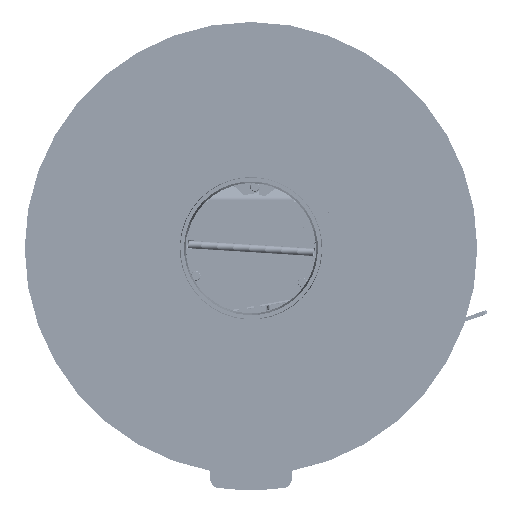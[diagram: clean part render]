
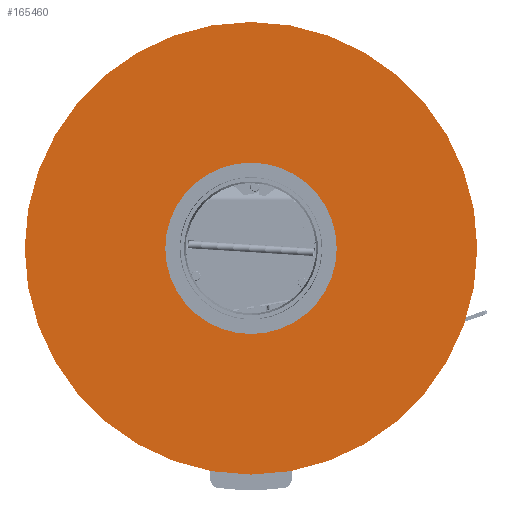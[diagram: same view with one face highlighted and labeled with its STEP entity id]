
A CAD part, top view. The second image highlights one B-rep face of the part: STEP entity #165460.
In plain terms, the highlighted planar face has unit normal (0, 0, 1).
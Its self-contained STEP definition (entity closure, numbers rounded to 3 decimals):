
#33698=PLANE('',#174686);
#41685=FACE_BOUND('',#52727,.T.);
#43603=FACE_OUTER_BOUND('',#52726,.T.);
#52726=EDGE_LOOP('',(#110159));
#52727=EDGE_LOOP('',(#110160));
#63675=CIRCLE('',#174680,8.9);
#63678=CIRCLE('',#174684,23.5);
#70196=VERTEX_POINT('',#236347);
#70199=VERTEX_POINT('',#236354);
#85997=EDGE_CURVE('',#70196,#70196,#63675,.T.);
#86000=EDGE_CURVE('',#70199,#70199,#63678,.T.);
#110159=ORIENTED_EDGE('',*,*,#86000,.T.);
#110160=ORIENTED_EDGE('',*,*,#85997,.T.);
#165460=ADVANCED_FACE('',(#43603,#41685),#33698,.T.);
#174680=AXIS2_PLACEMENT_3D('',#236348,#190302,#190303);
#174684=AXIS2_PLACEMENT_3D('',#236355,#190310,#190311);
#174686=AXIS2_PLACEMENT_3D('',#236357,#190314,#190315);
#190302=DIRECTION('center_axis',(0.,0.,
-1.));
#190303=DIRECTION('ref_axis',(-1.,0.,0.));
#190310=DIRECTION('center_axis',(0.,0.,
1.));
#190311=DIRECTION('ref_axis',(-1.,0.,0.));
#190314=DIRECTION('center_axis',(0.,0.,
1.));
#190315=DIRECTION('ref_axis',(-1.,0.,0.));
#236347=CARTESIAN_POINT('',(8.9,0.,50.4));
#236348=CARTESIAN_POINT('Origin',(0.,0.,
50.4));
#236354=CARTESIAN_POINT('',(23.5,0.,50.4));
#236355=CARTESIAN_POINT('Origin',(0.,0.,
50.4));
#236357=CARTESIAN_POINT('Origin',(0.,0.,
50.4));
